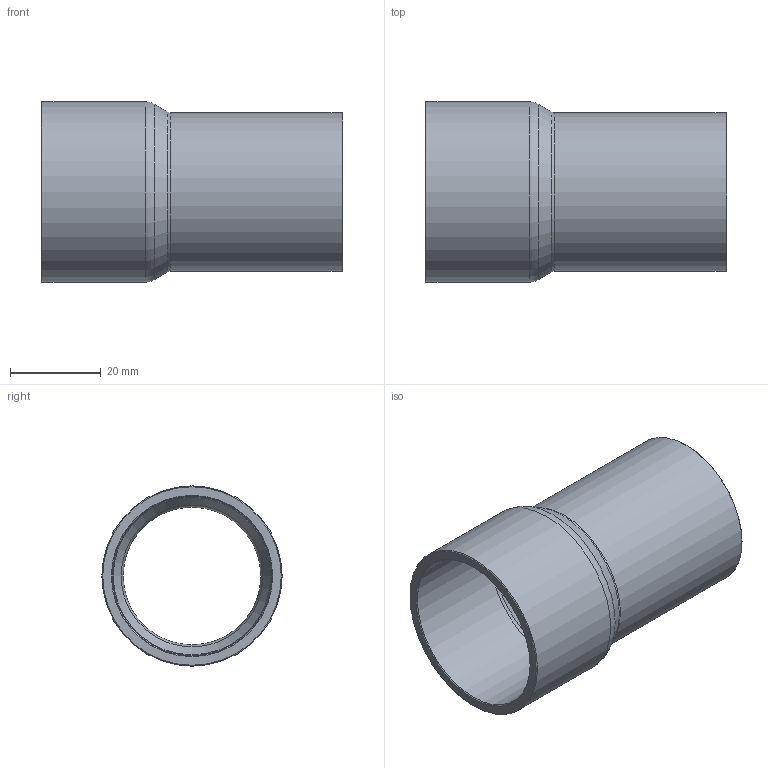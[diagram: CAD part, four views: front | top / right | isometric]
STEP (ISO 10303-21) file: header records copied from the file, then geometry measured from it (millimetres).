
FILE_DESCRIPTION((''),'2;1');
FILE_NAME('G:\SANHA-Ternat\Technik\Management\Bouwmaten + markeringen\z-maattekeningen 3D\29000s\29000s_gem\29245138_gem.stp','2020-03-27T10:02:08',('vdvijverd'),(''),'Autodesk Inventor 2009','Autodesk Inventor 2009','');
FILE_SCHEMA(('AUTOMOTIVE_DESIGN { 1 0 10303 214 1 1 1 1 }'));
Length unit declared in the file: millimetre
Products named in the file (1): 29245138_gem
Bounding box: 66.5 x 39.7 x 39.7 mm (x, y, z)
Volume: 16705.7 mm3; surface area: 14998.1 mm2
Topology: 1 solids, 1 shells, 15 faces, 28 edges, 15 vertices
Faces by surface type: cone 5, cylinder 4, plane 2, torus 2, bspline 2
Full cylindrical faces by diameter (mm): 30.32 x1, 34.92 x1, 35.105 x1, 39.705 x1
Entity records: 414 total; most frequent: CARTESIAN_POINT 134, DIRECTION 58, ORIENTED_EDGE 30, EDGE_LOOP 30, AXIS2_PLACEMENT_3D 29, VERTEX_POINT 15, CIRCLE 15, EDGE_CURVE 15
